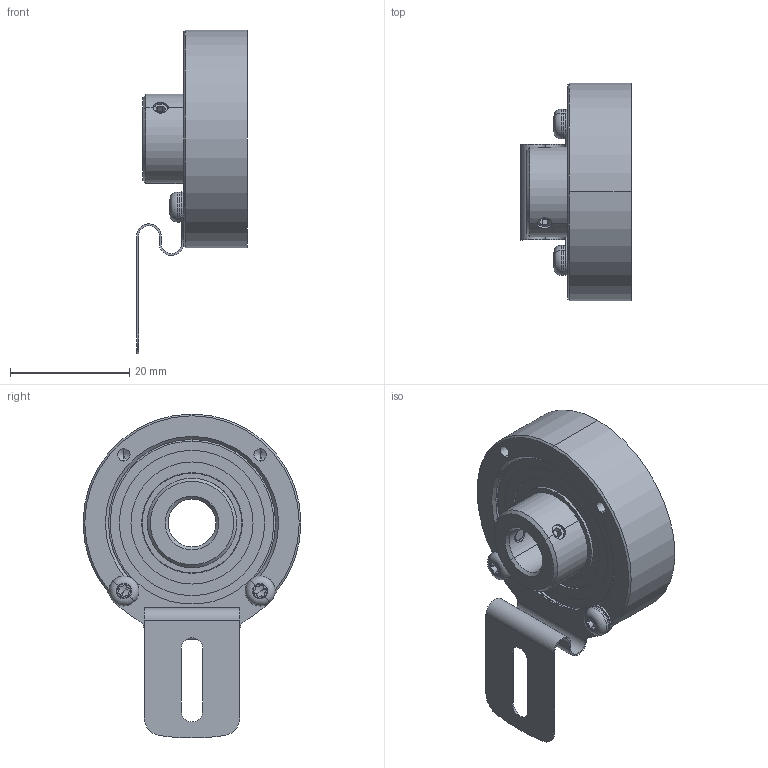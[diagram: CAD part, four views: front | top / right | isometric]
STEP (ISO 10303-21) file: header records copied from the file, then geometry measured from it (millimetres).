
FILE_DESCRIPTION (( 'STEP AP214' ), '1' );
FILE_NAME ('drawing-ucd-a8a0-q3a-n.STEP', '2017-01-06T13:40:53', ( '' ), ( '' ), 'SwSTEP 2.0', 'SolidWorks 2015', '' );
FILE_SCHEMA (( 'AUTOMOTIVE_DESIGN' ));
Length unit declared in the file: millimetre
Products named in the file (1): drawing-ucd-a8a0-q3a-n
Bounding box: 18.5 x 36.5 x 54.25 mm (x, y, z)
Volume: 9461.5 mm3; surface area: 12353.2 mm2
Topology: 20 solids, 20 shells, 374 faces, 920 edges, 559 vertices
Faces by surface type: cylinder 127, plane 91, cone 74, bspline 62, torus 20
Entity records: 13484 total; most frequent: CARTESIAN_POINT 4652, DIRECTION 1817, ORIENTED_EDGE 1756, EDGE_CURVE 878, AXIS2_PLACEMENT_3D 780, VERTEX_POINT 559, CIRCLE 467, EDGE_LOOP 429
